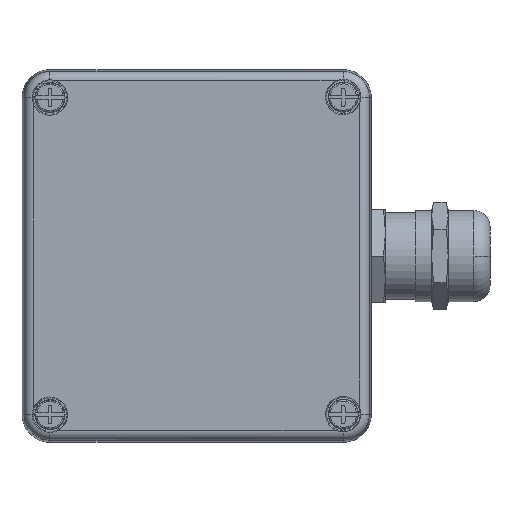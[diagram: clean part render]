
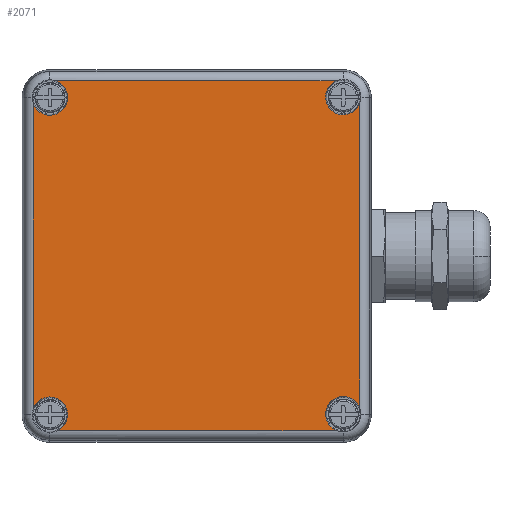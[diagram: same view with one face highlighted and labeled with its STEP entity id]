
A CAD part, top view. The second image highlights one B-rep face of the part: STEP entity #2071.
In plain terms, the highlighted planar face has unit normal (0, 0, 1).
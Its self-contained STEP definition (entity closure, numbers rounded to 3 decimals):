
#2071=ADVANCED_FACE('',(#4226),#4227,.T.);
#4226=FACE_OUTER_BOUND('',#6499,.T.);
#4227=PLANE('',#6500);
#6499=EDGE_LOOP('',(#12540,#12541,#12542,#12543,#12544,#12545,#12546,#12547,#12548,#12549,#12550,#12551,#12552,#12553));
#6500=AXIS2_PLACEMENT_3D('',#12554,#12555,#12556);
#12540=ORIENTED_EDGE('',*,*,#15748,.T.);
#12541=ORIENTED_EDGE('',*,*,#15645,.T.);
#12542=ORIENTED_EDGE('',*,*,#15751,.T.);
#12543=ORIENTED_EDGE('',*,*,#15654,.T.);
#12544=ORIENTED_EDGE('',*,*,#15778,.T.);
#12545=ORIENTED_EDGE('',*,*,#15593,.T.);
#12546=ORIENTED_EDGE('',*,*,#15779,.T.);
#12547=ORIENTED_EDGE('',*,*,#15610,.T.);
#12548=ORIENTED_EDGE('',*,*,#15780,.T.);
#12549=ORIENTED_EDGE('',*,*,#15614,.T.);
#12550=ORIENTED_EDGE('',*,*,#15781,.F.);
#12551=ORIENTED_EDGE('',*,*,#15626,.T.);
#12552=ORIENTED_EDGE('',*,*,#15769,.T.);
#12553=ORIENTED_EDGE('',*,*,#15773,.F.);
#12554=CARTESIAN_POINT('',(0.0,37.566,57.0));
#12555=DIRECTION('',(0.0,0.0,1.0));
#12556=DIRECTION('',(1.0,-0.0,0.0));
#15593=EDGE_CURVE('',#19224,#19222,#19225,.T.);
#15610=EDGE_CURVE('',#19255,#19252,#19256,.T.);
#15614=EDGE_CURVE('',#19263,#19261,#19264,.T.);
#15626=EDGE_CURVE('',#19285,#19282,#19286,.T.);
#15645=EDGE_CURVE('',#19320,#19317,#19321,.T.);
#15654=EDGE_CURVE('',#19327,#19334,#19336,.T.);
#15748=EDGE_CURVE('',#19500,#19320,#19501,.T.);
#15751=EDGE_CURVE('',#19317,#19327,#19505,.T.);
#15769=EDGE_CURVE('',#19282,#19527,#19529,.T.);
#15773=EDGE_CURVE('',#19500,#19527,#19533,.T.);
#15778=EDGE_CURVE('',#19334,#19224,#19540,.T.);
#15779=EDGE_CURVE('',#19222,#19255,#19541,.T.);
#15780=EDGE_CURVE('',#19252,#19263,#19542,.T.);
#15781=EDGE_CURVE('',#19285,#19261,#19543,.T.);
#19222=VERTEX_POINT('',#24901);
#19224=VERTEX_POINT('',#24908);
#19225=CIRCLE('',#24909,3.8);
#19252=VERTEX_POINT('',#24941);
#19255=VERTEX_POINT('',#24945);
#19256=CIRCLE('',#24946,3.8);
#19261=VERTEX_POINT('',#24956);
#19263=VERTEX_POINT('',#24963);
#19264=CIRCLE('',#24964,3.8);
#19282=VERTEX_POINT('',#24985);
#19285=VERTEX_POINT('',#24989);
#19286=CIRCLE('',#24990,3.8);
#19317=VERTEX_POINT('',#25055);
#19320=VERTEX_POINT('',#25059);
#19321=CIRCLE('',#25060,3.8);
#19327=VERTEX_POINT('',#25067);
#19334=VERTEX_POINT('',#25080);
#19336=LINE('',#25087,#25088);
#19500=VERTEX_POINT('',#25288);
#19501=CIRCLE('',#25289,3.8);
#19505=CIRCLE('',#25298,3.8);
#19527=VERTEX_POINT('',#25344);
#19529=CIRCLE('',#25351,3.8);
#19533=LINE('',#25355,#25356);
#19540=CIRCLE('',#25364,3.8);
#19541=LINE('',#25365,#25366);
#19542=CIRCLE('',#25367,3.8);
#19543=LINE('',#25368,#25369);
#24901=CARTESIAN_POINT('',(29.941,37.566,57.0));
#24908=CARTESIAN_POINT('',(28.407,31.892,57.0));
#24909=AXIS2_PLACEMENT_3D('',#28752,#28753,#28754);
#24941=CARTESIAN_POINT('',(-28.407,36.208,57.0));
#24945=CARTESIAN_POINT('',(-30.186,37.566,57.0));
#24946=AXIS2_PLACEMENT_3D('',#28782,#28783,#28784);
#24956=CARTESIAN_POINT('',(-35.066,32.686,57.0));
#24963=CARTESIAN_POINT('',(-34.593,31.792,57.0));
#24964=AXIS2_PLACEMENT_3D('',#28788,#28789,#28790);
#24985=CARTESIAN_POINT('',(-28.407,-31.892,57.0));
#24989=CARTESIAN_POINT('',(-35.066,-32.786,57.0));
#24990=AXIS2_PLACEMENT_3D('',#28810,#28811,#28812);
#25055=CARTESIAN_POINT('',(34.593,-31.792,57.0));
#25059=CARTESIAN_POINT('',(28.407,-36.208,57.0));
#25060=AXIS2_PLACEMENT_3D('',#28840,#28841,#28842);
#25067=CARTESIAN_POINT('',(35.066,-32.686,57.0));
#25080=CARTESIAN_POINT('',(35.066,32.786,57.0));
#25087=CARTESIAN_POINT('',(35.066,-32.686,57.0));
#25088=VECTOR('',#28854,65.472);
#25288=CARTESIAN_POINT('',(30.186,-37.566,57.0));
#25289=AXIS2_PLACEMENT_3D('',#29038,#29039,#29040);
#25298=AXIS2_PLACEMENT_3D('',#29044,#29045,#29046);
#25344=CARTESIAN_POINT('',(-29.941,-37.566,57.0));
#25351=AXIS2_PLACEMENT_3D('',#29074,#29075,#29076);
#25355=CARTESIAN_POINT('',(30.186,-37.566,57.0));
#25356=VECTOR('',#29080,60.127);
#25364=AXIS2_PLACEMENT_3D('',#29088,#29089,#29090);
#25365=CARTESIAN_POINT('',(29.941,37.566,57.0));
#25366=VECTOR('',#29091,60.127);
#25367=AXIS2_PLACEMENT_3D('',#29092,#29093,#29094);
#25368=CARTESIAN_POINT('',(-35.066,-32.786,57.0));
#25369=VECTOR('',#29095,65.472);
#28752=CARTESIAN_POINT('',(31.5,34.1,57.0));
#28753=DIRECTION('',(0.,0.,-1.0));
#28754=DIRECTION('',(-0.41,0.912,0.));
#28782=CARTESIAN_POINT('',(-31.5,34.0,57.0));
#28783=DIRECTION('',(-0.0,0.0,-1.0));
#28784=DIRECTION('',(-0.938,-0.346,0.0));
#28788=CARTESIAN_POINT('',(-31.5,34.0,57.0));
#28789=DIRECTION('',(-0.0,0.0,-1.0));
#28790=DIRECTION('',(-0.938,-0.346,0.0));
#28810=CARTESIAN_POINT('',(-31.5,-34.1,57.0));
#28811=DIRECTION('',(0.0,0.0,-1.0));
#28812=DIRECTION('',(0.41,-0.912,0.0));
#28840=CARTESIAN_POINT('',(31.5,-34.0,57.0));
#28841=DIRECTION('',(0.,0.,-1.0));
#28842=DIRECTION('',(0.938,0.346,0.));
#28854=DIRECTION('',(0.0,1.0,0.0));
#29038=CARTESIAN_POINT('',(31.5,-34.0,57.0));
#29039=DIRECTION('',(0.,0.,-1.0));
#29040=DIRECTION('',(0.938,0.346,0.));
#29044=CARTESIAN_POINT('',(31.5,-34.0,57.0));
#29045=DIRECTION('',(0.,0.,-1.0));
#29046=DIRECTION('',(0.938,0.346,0.));
#29074=CARTESIAN_POINT('',(-31.5,-34.1,57.0));
#29075=DIRECTION('',(0.0,0.0,-1.0));
#29076=DIRECTION('',(0.41,-0.912,0.0));
#29080=DIRECTION('',(-1.0,0.0,0.0));
#29088=CARTESIAN_POINT('',(31.5,34.1,57.0));
#29089=DIRECTION('',(0.,0.,-1.0));
#29090=DIRECTION('',(-0.41,0.912,0.));
#29091=DIRECTION('',(-1.0,0.0,0.0));
#29092=CARTESIAN_POINT('',(-31.5,34.0,57.0));
#29093=DIRECTION('',(-0.0,0.0,-1.0));
#29094=DIRECTION('',(-0.938,-0.346,0.0));
#29095=DIRECTION('',(0.0,1.0,0.0));
